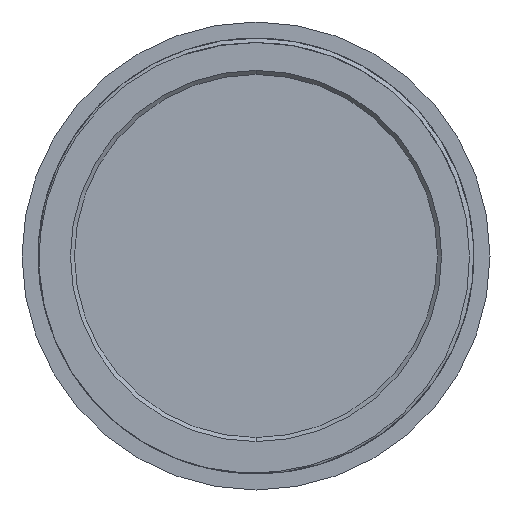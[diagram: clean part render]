
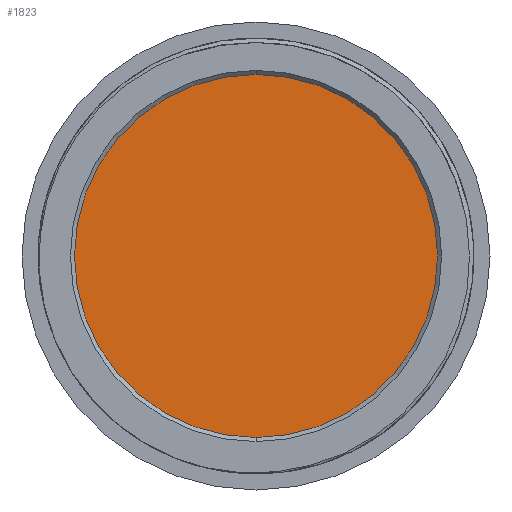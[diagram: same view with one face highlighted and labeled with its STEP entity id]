
A CAD part, front view. The second image highlights one B-rep face of the part: STEP entity #1823.
In plain terms, the highlighted planar face has unit normal (0, -1, 0).
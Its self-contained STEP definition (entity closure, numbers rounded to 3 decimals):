
#19 = ORIENTED_EDGE ( 'NONE', *, *, #2586, .F. ) ;
#30 = VERTEX_POINT ( 'NONE', #172 ) ;
#85 = DIRECTION ( 'NONE',  ( 0., 0., 1. ) ) ;
#172 = CARTESIAN_POINT ( 'NONE',  ( 0., 2.3, 12. ) ) ;
#234 = DIRECTION ( 'NONE',  ( 0., 1., 0. ) ) ;
#272 = AXIS2_PLACEMENT_3D ( 'NONE', #309, #1209, #1459 ) ;
#294 = CARTESIAN_POINT ( 'NONE',  ( 0., 2.3, 0. ) ) ;
#306 = CIRCLE ( 'NONE', #1906, 12. ) ;
#309 = CARTESIAN_POINT ( 'NONE',  ( 0., 2.3, 0. ) ) ;
#310 = CARTESIAN_POINT ( 'NONE',  ( 0., 2.3, 0. ) ) ;
#456 = FACE_OUTER_BOUND ( 'NONE', #785, .T. ) ;
#785 = EDGE_LOOP ( 'NONE', ( #19, #1745 ) ) ;
#1180 = DIRECTION ( 'NONE',  ( 0., 1., 0. ) ) ;
#1209 = DIRECTION ( 'NONE',  ( 0., 1., 0. ) ) ;
#1349 = CIRCLE ( 'NONE', #272, 12. ) ;
#1459 = DIRECTION ( 'NONE',  ( 0., 0., 1. ) ) ;
#1745 = ORIENTED_EDGE ( 'NONE', *, *, #1966, .F. ) ;
#1823 = ADVANCED_FACE ( 'NONE', ( #456 ), #2490, .F. ) ;
#1906 = AXIS2_PLACEMENT_3D ( 'NONE', #310, #1180, #85 ) ;
#1966 = EDGE_CURVE ( 'NONE', #30, #2150, #1349, .T. ) ;
#2000 = CARTESIAN_POINT ( 'NONE',  ( 0., 2.3, -12. ) ) ;
#2150 = VERTEX_POINT ( 'NONE', #2000 ) ;
#2436 = AXIS2_PLACEMENT_3D ( 'NONE', #294, #234, #2735 ) ;
#2490 = PLANE ( 'NONE',  #2436 ) ;
#2586 = EDGE_CURVE ( 'NONE', #2150, #30, #306, .T. ) ;
#2735 = DIRECTION ( 'NONE',  ( 0., 0., 1. ) ) ;
